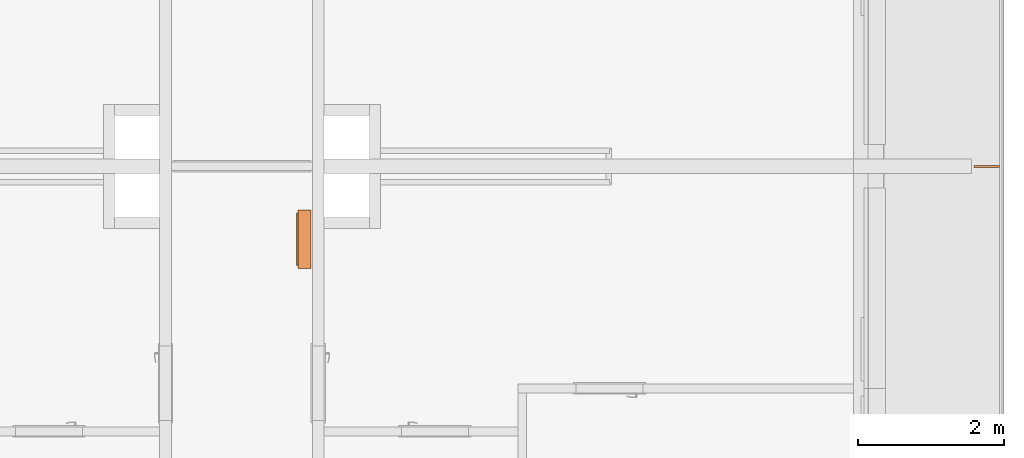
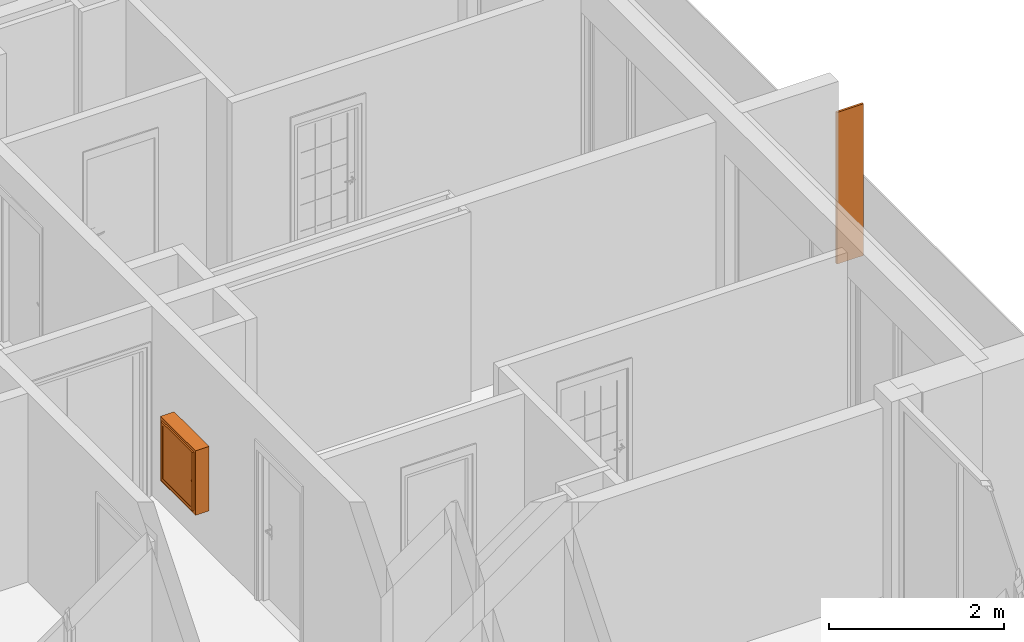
# One storey, part 35 of 67: 2 proxies.
"""IFC2X3 building model written with IfcOpenShell, lengths in millimetres."""

from ifc_helpers import new_model, entity, si_unit, converted_unit, derived_unit, money_unit, direction, frame, origin_with_axes, place, context, subcontext, project, spatial, polyline, outline, extrude, faceted_brep, source, transform, mapped, material, type_object, element, save


model = new_model("IFC2X3")

# Units and contexts
model_context = context("Model", 3, precision=0.01, world=origin_with_axes(), true_north=direction((0.34421633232, 0.938890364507)))
body_context = subcontext(model_context, "Body", "Model", "MODEL_VIEW")
ifc_project = project(units=[si_unit("LENGTHUNIT", "METRE", prefix="MILLI"), si_unit("AREAUNIT", "SQUARE_METRE"), si_unit("VOLUMEUNIT", "CUBIC_METRE"), converted_unit("PLANEANGLEUNIT", "DEGREE", entity("IfcPlaneAngleMeasure", 0.0174532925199), si_unit("PLANEANGLEUNIT", "RADIAN"), dimensions=[0, 0, 0, 0, 0, 0, 0]), si_unit("SOLIDANGLEUNIT", "STERADIAN"), money_unit("USD"), converted_unit("TIMEUNIT", "Year", entity("IfcTimeMeasure", 31556926.0), si_unit("TIMEUNIT", "SECOND"), dimensions=[0, 0, 1, 0, 0, 0, 0]), si_unit("MASSUNIT", "GRAM", prefix="KILO"), si_unit("THERMODYNAMICTEMPERATUREUNIT", "DEGREE_CELSIUS"), si_unit("LUMINOUSINTENSITYUNIT", "LUMEN"), si_unit("ENERGYUNIT", "JOULE", prefix="MEGA"), derived_unit("THERMALCONDUCTANCEUNIT", [(si_unit("POWERUNIT", "WATT"), 1), (si_unit("LENGTHUNIT", "METRE"), -1), (si_unit("THERMODYNAMICTEMPERATUREUNIT", "KELVIN"), -1)]), derived_unit("SPECIFICHEATCAPACITYUNIT", [(si_unit("ENERGYUNIT", "JOULE"), 1), (si_unit("MASSUNIT", "GRAM", prefix="KILO"), -1), (si_unit("THERMODYNAMICTEMPERATUREUNIT", "KELVIN"), -1)]), derived_unit("MASSDENSITYUNIT", [(si_unit("MASSUNIT", "GRAM", prefix="KILO"), 1), (si_unit("VOLUMEUNIT", "CUBIC_METRE"), -1)])], contexts=[model_context])

# Site, building, storey
site_placement = place(None, origin_with_axes())
site = spatial("IfcSite", under=ifc_project, at=site_placement, Name="USTRONIE MORSKIE", CompositionType="ELEMENT")
building_placement = place(site_placement, origin_with_axes())
building = spatial("IfcBuilding", under=site, at=building_placement, Name="Budynek", CompositionType="ELEMENT")
storey_placement = place(building_placement, frame((0.0, 0.0, 4000.0), z_axis=(0.0, 0.0, 1.0), x_axis=(1.0, 0.0, 0.0)))
storey = spatial("IfcBuildingStorey", under=building, at=storey_placement, Name="PIĘTRO 1", CompositionType="ELEMENT", Elevation=4000.0)

# Proxies
ifc_material = material(Name="Woda")
building_element_proxy_type_1 = type_object("IfcBuildingElementProxyType", Name="Woda 30", PredefinedType="NOTDEFINED")
proxy_1_placement = place(storey_placement, frame((427117.920919, 721001.199036, 20.0), z_axis=(0.0, 0.0, 1.0), x_axis=(1.0, 0.0, 0.0)))
element("IfcBuildingElementProxy", 1, at=proxy_1_placement, inside=storey, type_object=building_element_proxy_type_1, material=ifc_material, Name="Œciana-007", context=body_context, shape_type="SweptSolid", body=[
    extrude(outline(polyline([(0.0, -15.0), (350.0, -15.0), (350.0, 15.0), (0.0, 15.0), (0.0, -15.0)])), origin_with_axes(), (0.0, 0.0, 1.0), 2120.0),
])
building_element_proxy_type_2 = type_object("IfcBuildingElementProxyType", Name="Skrzynka P-Poż 23", PredefinedType="NOTDEFINED")
shared_shape = source(origin_with_axes(), body_context, "Body", "Brep", [
    faceted_brep([(0.0, 40.0, 0.0), (800.0, 40.0, 0.0), (800.0, 20.0, 0.0), (0.0, 20.0, 0.0), (0.0, 40.0, 900.0), (800.0, 40.0, 900.0), (60.0, 40.0, 60.0), (740.0, 40.0, 60.0), (740.0, 40.0, 840.0), (60.0, 40.0, 840.0), (800.0, 20.0, 900.0), (0.0, 20.0, 900.0), (60.0, 20.0, 60.0), (60.0, 20.0, 840.0), (740.0, 20.0, 840.0), (740.0, 20.0, 60.0)], [[[0, 1, 2, 3]], [[0, 4, 5, 1], [6, 7, 8, 9]], [[1, 5, 10, 2]], [[3, 2, 10, 11], [12, 13, 14, 15]], [[4, 0, 3, 11]], [[5, 4, 11, 10]], [[7, 6, 12, 15]], [[8, 7, 15, 14]], [[9, 8, 14, 13]], [[6, 9, 13, 12]]]),
    faceted_brep([(40.0, 20.0, 40.0), (760.0, 20.0, 40.0), (760.0, 0.0, 40.0), (40.0, 0.0, 40.0), (40.0, 20.0, 860.0), (760.0, 20.0, 860.0), (80.0, 20.0, 80.0), (720.0, 20.0, 80.0), (720.0, 20.0, 820.0), (80.0, 20.0, 820.0), (760.0, 0.0, 860.0), (40.0, 0.0, 860.0), (80.0, 0.0, 80.0), (80.0, 0.0, 820.0), (720.0, 0.0, 820.0), (720.0, 0.0, 80.0)], [[[0, 1, 2, 3]], [[0, 4, 5, 1], [6, 7, 8, 9]], [[1, 5, 10, 2]], [[3, 2, 10, 11], [12, 13, 14, 15]], [[4, 0, 3, 11]], [[5, 4, 11, 10]], [[7, 6, 12, 15]], [[8, 7, 15, 14]], [[9, 8, 14, 13]], [[6, 9, 13, 12]]]),
    faceted_brep([(0.0, 180.0, 0.0), (800.0, 180.0, 0.0), (800.0, 40.0, 0.0), (0.0, 40.0, 0.0), (0.0, 180.0, 900.0), (800.0, 180.0, 900.0), (20.0, 180.0, 20.0), (780.0, 180.0, 20.0), (780.0, 180.0, 880.0), (20.0, 180.0, 880.0), (800.0, 40.0, 900.0), (0.0, 40.0, 900.0), (20.0, 40.0, 20.0), (20.0, 40.0, 880.0), (780.0, 40.0, 880.0), (780.0, 40.0, 20.0)], [[[0, 1, 2, 3]], [[0, 4, 5, 1], [6, 7, 8, 9]], [[1, 5, 10, 2]], [[3, 2, 10, 11], [12, 13, 14, 15]], [[4, 0, 3, 11]], [[5, 4, 11, 10]], [[7, 6, 12, 15]], [[8, 7, 15, 14]], [[9, 8, 14, 13]], [[6, 9, 13, 12]]]),
    faceted_brep([(0.0, 200.0, 0.0), (800.0, 200.0, 0.0), (800.0, 180.0, 0.0), (0.0, 180.0, 0.0), (0.0, 200.0, 900.0), (800.0, 200.0, 900.0), (800.0, 180.0, 900.0), (0.0, 180.0, 900.0)], [[[0, 1, 2, 3]], [[0, 4, 5, 1]], [[1, 5, 6, 2]], [[3, 2, 6, 7]], [[4, 0, 3, 7]], [[5, 4, 7, 6]]]),
    faceted_brep([(80.0, 15.0, 80.0), (720.0, 15.0, 80.0), (720.0, 5.0, 80.0), (80.0, 5.0, 80.0), (80.0, 15.0, 820.0), (720.0, 15.0, 820.0), (720.0, 5.0, 820.0), (80.0, 5.0, 820.0)], [[[0, 1, 2, 3]], [[0, 4, 5, 1]], [[1, 5, 6, 2]], [[3, 2, 6, 7]], [[4, 0, 3, 7]], [[5, 4, 7, 6]]]),
    faceted_brep([(749.659258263, 0.0, 447.411809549), (748.660254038, 0.0, 445.0), (747.071067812, 0.0, 442.928932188), (745.0, 0.0, 441.339745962), (742.588190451, 0.0, 440.340741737), (740.0, 0.0, 440.0), (737.411809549, 0.0, 440.340741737), (735.0, 0.0, 441.339745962), (732.928932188, 0.0, 442.928932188), (731.339745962, 0.0, 445.0), (730.340741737, 0.0, 447.411809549), (730.0, 0.0, 450.0), (730.340741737, 0.0, 452.588190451), (731.339745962, 0.0, 455.0), (732.928932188, 0.0, 457.071067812), (735.0, 0.0, 458.660254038), (737.411809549, 0.0, 459.659258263), (740.0, 0.0, 460.0), (742.588190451, 0.0, 459.659258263), (745.0, 0.0, 458.660254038), (747.071067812, 0.0, 457.071067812), (748.660254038, 0.0, 455.0), (749.659258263, 0.0, 452.588190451), (750.0, 0.0, 450.0), (749.659258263, -2.0, 447.411809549), (748.660254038, -2.0, 445.0), (747.071067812, -2.0, 442.928932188), (745.0, -2.0, 441.339745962), (742.588190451, -2.0, 440.340741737), (740.0, -2.0, 440.0), (737.411809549, -2.0, 440.340741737), (735.0, -2.0, 441.339745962), (732.928932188, -2.0, 442.928932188), (731.339745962, -2.0, 445.0), (730.340741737, -2.0, 447.411809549), (730.0, -2.0, 450.0), (730.340741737, -2.0, 452.588190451), (731.339745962, -2.0, 455.0), (732.928932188, -2.0, 457.071067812), (735.0, -2.0, 458.660254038), (737.411809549, -2.0, 459.659258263), (740.0, -2.0, 460.0), (742.588190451, -2.0, 459.659258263), (745.0, -2.0, 458.660254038), (747.071067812, -2.0, 457.071067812), (748.660254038, -2.0, 455.0), (749.659258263, -2.0, 452.588190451), (750.0, -2.0, 450.0)], [[[0, 1, 2, 3, 4, 5, 6, 7, 8, 9, 10, 11, 12, 13, 14, 15, 16, 17, 18, 19, 20, 21, 22, 23]], [[1, 0, 24, 25]], [[2, 1, 25, 26]], [[3, 2, 26, 27]], [[4, 3, 27, 28]], [[5, 4, 28, 29]], [[6, 5, 29, 30]], [[7, 6, 30, 31]], [[8, 7, 31, 32]], [[9, 8, 32, 33]], [[10, 9, 33, 34]], [[11, 10, 34, 35]], [[12, 11, 35, 36]], [[13, 12, 36, 37]], [[14, 13, 37, 38]], [[15, 14, 38, 39]], [[16, 15, 39, 40]], [[17, 16, 40, 41]], [[18, 17, 41, 42]], [[19, 18, 42, 43]], [[20, 19, 43, 44]], [[21, 20, 44, 45]], [[22, 21, 45, 46]], [[23, 22, 46, 47]], [[0, 23, 47, 24]], [[24, 47, 46, 45, 44, 43, 42, 41, 40, 39, 38, 37, 36, 35, 34, 33, 32, 31, 30, 29, 28, 27, 26, 25]]]),
    faceted_brep([(39.8977774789, 16.2235428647, 80.0), (39.5980762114, 15.5, 80.0), (39.1213203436, 14.8786796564, 80.0), (38.5, 14.4019237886, 80.0), (37.7764571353, 14.1022225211, 80.0), (37.0, 14.0, 80.0), (36.2235428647, 14.1022225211, 80.0), (35.5, 14.4019237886, 80.0), (34.8786796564, 14.8786796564, 80.0), (34.4019237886, 15.5, 80.0), (34.1022225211, 16.2235428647, 80.0), (34.0, 17.0, 80.0), (34.1022225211, 17.7764571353, 80.0), (34.4019237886, 18.5, 80.0), (34.8786796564, 19.1213203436, 80.0), (35.5, 19.5980762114, 80.0), (36.2235428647, 19.8977774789, 80.0), (37.0, 20.0, 80.0), (37.7764571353, 19.8977774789, 80.0), (38.5, 19.5980762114, 80.0), (39.1213203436, 19.1213203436, 80.0), (39.5980762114, 18.5, 80.0), (39.8977774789, 17.7764571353, 80.0), (40.0, 17.0, 80.0), (39.8977774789, 16.2235428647, 120.0), (39.5980762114, 15.5, 120.0), (39.1213203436, 14.8786796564, 120.0), (38.5, 14.4019237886, 120.0), (37.7764571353, 14.1022225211, 120.0), (37.0, 14.0, 120.0), (36.2235428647, 14.1022225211, 120.0), (35.5, 14.4019237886, 120.0), (34.8786796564, 14.8786796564, 120.0), (34.4019237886, 15.5, 120.0), (34.1022225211, 16.2235428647, 120.0), (34.0, 17.0, 120.0), (34.1022225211, 17.7764571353, 120.0), (34.4019237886, 18.5, 120.0), (34.8786796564, 19.1213203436, 120.0), (35.5, 19.5980762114, 120.0), (36.2235428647, 19.8977774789, 120.0), (37.0, 20.0, 120.0), (37.7764571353, 19.8977774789, 120.0), (38.5, 19.5980762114, 120.0), (39.1213203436, 19.1213203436, 120.0), (39.5980762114, 18.5, 120.0), (39.8977774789, 17.7764571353, 120.0), (40.0, 17.0, 120.0)], [[[0, 1, 2, 3, 4, 5, 6, 7, 8, 9, 10, 11, 12, 13, 14, 15, 16, 17, 18, 19, 20, 21, 22, 23]], [[1, 0, 24, 25]], [[2, 1, 25, 26]], [[3, 2, 26, 27]], [[4, 3, 27, 28]], [[5, 4, 28, 29]], [[6, 5, 29, 30]], [[7, 6, 30, 31]], [[8, 7, 31, 32]], [[9, 8, 32, 33]], [[10, 9, 33, 34]], [[11, 10, 34, 35]], [[12, 11, 35, 36]], [[13, 12, 36, 37]], [[14, 13, 37, 38]], [[15, 14, 38, 39]], [[16, 15, 39, 40]], [[17, 16, 40, 41]], [[18, 17, 41, 42]], [[19, 18, 42, 43]], [[20, 19, 43, 44]], [[21, 20, 44, 45]], [[22, 21, 45, 46]], [[23, 22, 46, 47]], [[0, 23, 47, 24]], [[24, 47, 46, 45, 44, 43, 42, 41, 40, 39, 38, 37, 36, 35, 34, 33, 32, 31, 30, 29, 28, 27, 26, 25]]]),
    faceted_brep([(39.8977774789, 16.2235428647, 780.0), (39.5980762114, 15.5, 780.0), (39.1213203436, 14.8786796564, 780.0), (38.5, 14.4019237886, 780.0), (37.7764571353, 14.1022225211, 780.0), (37.0, 14.0, 780.0), (36.2235428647, 14.1022225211, 780.0), (35.5, 14.4019237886, 780.0), (34.8786796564, 14.8786796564, 780.0), (34.4019237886, 15.5, 780.0), (34.1022225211, 16.2235428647, 780.0), (34.0, 17.0, 780.0), (34.1022225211, 17.7764571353, 780.0), (34.4019237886, 18.5, 780.0), (34.8786796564, 19.1213203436, 780.0), (35.5, 19.5980762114, 780.0), (36.2235428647, 19.8977774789, 780.0), (37.0, 20.0, 780.0), (37.7764571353, 19.8977774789, 780.0), (38.5, 19.5980762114, 780.0), (39.1213203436, 19.1213203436, 780.0), (39.5980762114, 18.5, 780.0), (39.8977774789, 17.7764571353, 780.0), (40.0, 17.0, 780.0), (39.8977774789, 16.2235428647, 820.0), (39.5980762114, 15.5, 820.0), (39.1213203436, 14.8786796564, 820.0), (38.5, 14.4019237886, 820.0), (37.7764571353, 14.1022225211, 820.0), (37.0, 14.0, 820.0), (36.2235428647, 14.1022225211, 820.0), (35.5, 14.4019237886, 820.0), (34.8786796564, 14.8786796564, 820.0), (34.4019237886, 15.5, 820.0), (34.1022225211, 16.2235428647, 820.0), (34.0, 17.0, 820.0), (34.1022225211, 17.7764571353, 820.0), (34.4019237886, 18.5, 820.0), (34.8786796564, 19.1213203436, 820.0), (35.5, 19.5980762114, 820.0), (36.2235428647, 19.8977774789, 820.0), (37.0, 20.0, 820.0), (37.7764571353, 19.8977774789, 820.0), (38.5, 19.5980762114, 820.0), (39.1213203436, 19.1213203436, 820.0), (39.5980762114, 18.5, 820.0), (39.8977774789, 17.7764571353, 820.0), (40.0, 17.0, 820.0)], [[[0, 1, 2, 3, 4, 5, 6, 7, 8, 9, 10, 11, 12, 13, 14, 15, 16, 17, 18, 19, 20, 21, 22, 23]], [[1, 0, 24, 25]], [[2, 1, 25, 26]], [[3, 2, 26, 27]], [[4, 3, 27, 28]], [[5, 4, 28, 29]], [[6, 5, 29, 30]], [[7, 6, 30, 31]], [[8, 7, 31, 32]], [[9, 8, 32, 33]], [[10, 9, 33, 34]], [[11, 10, 34, 35]], [[12, 11, 35, 36]], [[13, 12, 36, 37]], [[14, 13, 37, 38]], [[15, 14, 38, 39]], [[16, 15, 39, 40]], [[17, 16, 40, 41]], [[18, 17, 41, 42]], [[19, 18, 42, 43]], [[20, 19, 43, 44]], [[21, 20, 44, 45]], [[22, 21, 45, 46]], [[23, 22, 46, 47]], [[0, 23, 47, 24]], [[24, 47, 46, 45, 44, 43, 42, 41, 40, 39, 38, 37, 36, 35, 34, 33, 32, 31, 30, 29, 28, 27, 26, 25]]]),
])
proxy_2_placement = place(storey_placement, frame((417817.920919, 720401.173416, 600.0), z_axis=(0.0, 0.0, 1.0), x_axis=(0.0, -1.0, 0.0)))
element("IfcBuildingElementProxy", 2, at=proxy_2_placement, inside=storey, type_object=building_element_proxy_type_2, Name="OB3", context=body_context, shape_type="MappedRepresentation", body=[
    mapped(shared_shape, transform((0.0, 0.0, 0.0))),
])

save(model, "model.ifc")
